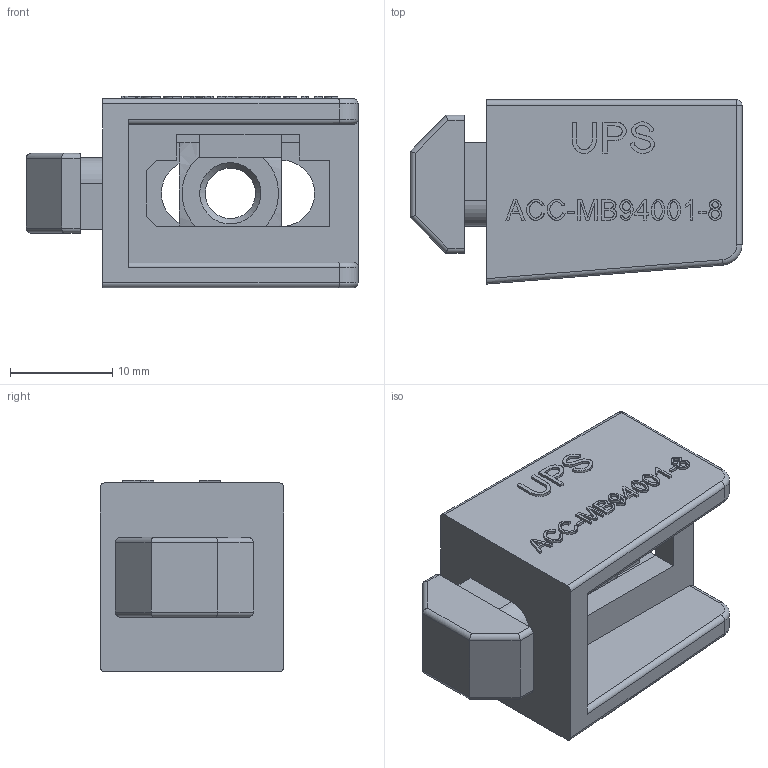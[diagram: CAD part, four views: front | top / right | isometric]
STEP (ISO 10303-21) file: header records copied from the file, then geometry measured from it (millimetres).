
FILE_DESCRIPTION((''),'2;1');
FILE_NAME('E:\catalogue and flyer\Profile catalogue 2015\Accessories ACC info\Accessories ACC step file 31Mar16\ACC-MB94001-8.stp','2016-04-07T14:54:14',('h029'),(''),'Autodesk Inventor 11','Autodesk Inventor 11','');
FILE_SCHEMA(('AUTOMOTIVE_DESIGN { 1 0 10303 214 1 1 1 1 }'));
Length unit declared in the file: millimetre
Products named in the file (3): Multi-Block_3030(Full); Multi-Block_3030; Washer
Assembly tree (2 placements, depth 2):
  Multi-Block_3030(Full)
    Multi-Block_3030
    Washer
Bounding box: 32.5 x 18 x 18.75 mm (x, y, z)
Volume: 4827.3 mm3; surface area: 4068 mm2
Topology: 2 solids, 2 shells, 316 faces, 821 edges, 537 vertices
Faces by surface type: plane 167, bspline 112, cylinder 29, torus 6, sphere 2
Entity records: 11107 total; most frequent: CARTESIAN_POINT 4014, ORIENTED_EDGE 1626, DIRECTION 1081, EDGE_CURVE 813, VERTEX_POINT 536, VECTOR 535, LINE 535, EDGE_LOOP 357
